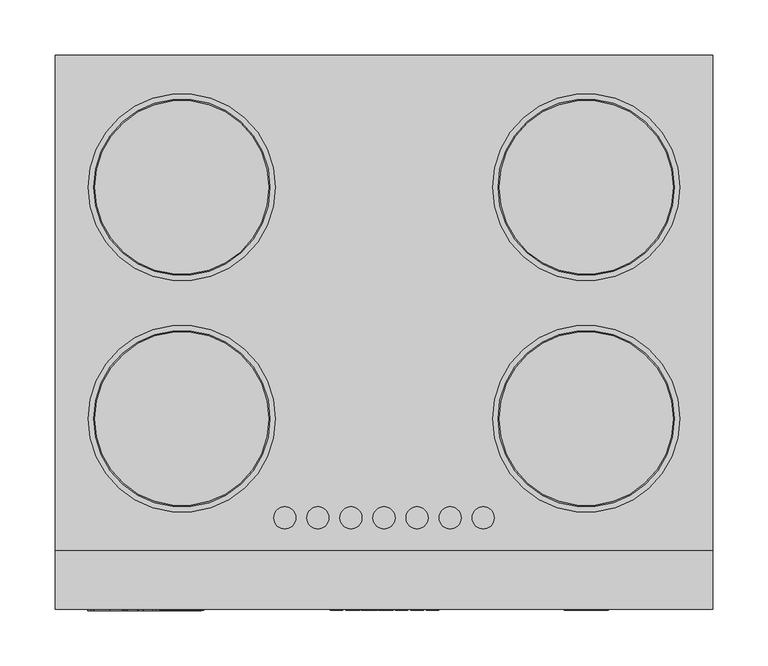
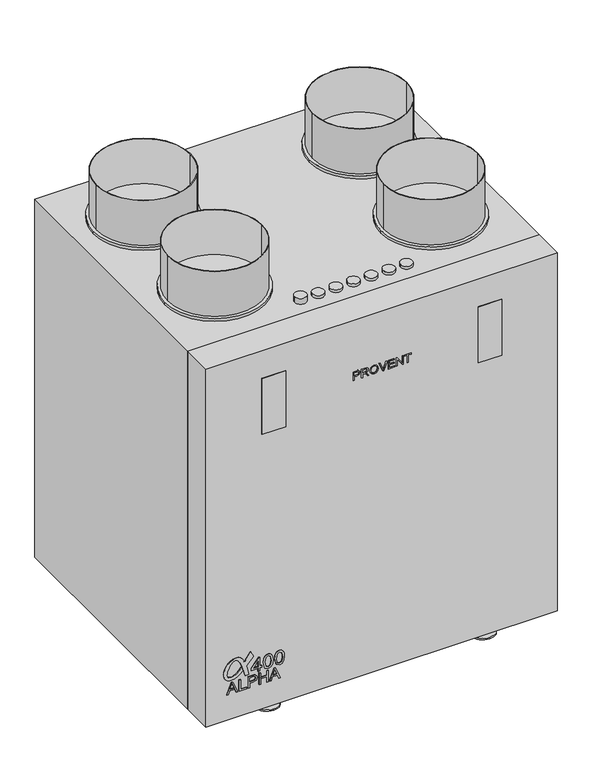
"""IFC4 building model written with IfcOpenShell, lengths in millimetres: proxy geometry, PROVENT_Вертикальная приточно-вытяжная установка_ALPHA 400 V_L : Provent ALPHA 400 V (L)."""

from ifc_helpers import new_model, si_unit, point, frame, frame_2d, origin, origin_with_axes, place, context, project, spatial, polyline, circle_curve, trimmed, segment, composite_curve, outline, extrude, source, transform, mapped, element, save
from ifc_brep_helpers import plane_surface, cylinder_surface, advanced_brep


def mechanical_equipment_3e4f93d2(model_context):
    return source(origin(), model_context, "Body", "SolidModel", [
        extrude(outline(composite_curve([segment(trimmed(circle_curve(frame_2d((105.733129, -233.6479162)), 0.5380284), [point((105.5307619, -233.1493963))], [point((105.5307619, -234.1464361))], True, "CARTESIAN"), True, "CONTINUOUS"), segment(polyline([(105.5307619, -234.1464361), (108.4438718, -235.2646742), (110.8786758, -236.5052688), (111.8121807, -237.158916)]), True, "CONTINUOUS"), segment(trimmed(circle_curve(frame_2d((104.0893382, -247.129322)), 12.6115539), [point((111.8121807, -237.158916))], [point((116.6261852, -248.5))], False, "CARTESIAN"), True, "CONTINUOUS"), segment(trimmed(circle_curve(frame_2d((94.7661112, -246.1099953)), 21.9903379), [point((116.6261852, -248.5))], [point((104.4885666, -265.8343159))], False, "CARTESIAN"), True, "CONTINUOUS"), segment(trimmed(circle_curve(frame_2d((93.5739124, -247.3024361)), 21.5072137), [point((104.4885666, -265.8343159))], [point((86.750764, -267.698634))], False, "CARTESIAN"), True, "CONTINUOUS"), segment(trimmed(circle_curve(frame_2d((92.3890877, -256.5751088)), 12.4709065), [point((86.750764, -267.698634))], [point((79.9366704, -255.8962777))], False, "CARTESIAN"), True, "CONTINUOUS"), segment(trimmed(circle_curve(frame_2d((110.0461474, -259.6005323)), 30.3364814), [point((79.9366704, -255.8962777))], [point((90.1381753, -236.7100375))], False, "CARTESIAN"), True, "CONTINUOUS"), segment(polyline([(90.1381753, -236.7100375), (97.4533974, -239.0868972)]), True, "CONTINUOUS"), segment(trimmed(circle_curve(frame_2d((112.8376087, -264.5490398)), 29.7488598), [point((97.4533974, -239.0868972))], [point((85.9068624, -251.9106235))], True, "CARTESIAN"), True, "CONTINUOUS"), segment(trimmed(circle_curve(frame_2d((94.2043298, -255.8045686)), 9.1657392), [point((85.9068624, -251.9106235))], [point((86.5295452, -260.8154024))], True, "CARTESIAN"), True, "CONTINUOUS"), segment(trimmed(circle_curve(frame_2d((91.0798658, -257.8445177)), 5.4342961), [point((86.5295452, -260.8154024))], [point((91.5402338, -263.2592786))], True, "CARTESIAN"), True, "CONTINUOUS"), segment(trimmed(circle_curve(frame_2d((91.5850962, -244.5080308)), 18.7513014), [point((91.5402338, -263.2592786))], [point((99.8454243, -261.3418743))], True, "CARTESIAN"), True, "CONTINUOUS"), segment(trimmed(circle_curve(frame_2d((91.1893595, -236.2792508)), 26.5153267), [point((99.8454243, -261.3418743))], [point((111.1844004, -253.6936383))], True, "CARTESIAN"), True, "CONTINUOUS"), segment(trimmed(circle_curve(frame_2d((105.8571487, -249.0539465)), 7.0644427), [point((111.1844004, -253.6936383))], [point((110.4868357, -243.7179978))], True, "CARTESIAN"), True, "CONTINUOUS"), segment(trimmed(circle_curve(frame_2d((74.7273898, -306.3387075)), 72.1116583), [point((110.4868357, -243.7179978))], [point((96.0155477, -237.4409166))], True, "CARTESIAN"), True, "CONTINUOUS"), segment(polyline([(96.0155477, -237.4409166), (80.1999436, -232.3021153), (80.1999436, -226.2678218), (94.9084674, -230.0689193)]), True, "CONTINUOUS"), segment(trimmed(circle_curve(frame_2d((95.7729921, -226.7236006)), 3.4552222), [point((94.9084674, -230.0689193))], [point((98.5138308, -228.8274931))], True, "CARTESIAN"), True, "CONTINUOUS"), segment(polyline([(98.5138308, -228.8274931), (109.4841363, -218.5975177)]), True, "CONTINUOUS"), segment(trimmed(circle_curve(frame_2d((110.1625275, -219.3250032)), 0.9947108), [point((109.4841363, -218.5975177))], [point((110.8409186, -218.5975177))], False, "CARTESIAN"), True, "CONTINUOUS"), segment(polyline([(110.8409186, -218.5975177), (118.9566741, -222.5558361)]), True, "CONTINUOUS"), segment(trimmed(circle_curve(frame_2d((118.472789, -222.8994306)), 0.593466), [point((118.9566741, -222.5558361))], [point((118.8242858, -223.3776062))], False, "CARTESIAN"), True, "CONTINUOUS"), segment(polyline([(118.8242858, -223.3776062), (105.5307619, -233.1493963)]), True, "CONTINUOUS")], self_intersect=False)), frame((0.0, -252.5, 0.0), z_axis=(0.0, 1.0, 0.0), x_axis=(0.0, 0.0, 1.0)), (0.0, 0.0, 1.0), 1.0),
        extrude(outline(polyline([(55.4809879, -263.4468788), (55.4809879, -260.7932233), (61.7595073, -258.4976397), (61.7595073, -250.2227473), (55.4809879, -247.9222586), (55.4809879, -245.2686031), (75.57225, -253.2884306), (75.57225, -255.4270513), (55.4809879, -263.4468788)]), holes=[polyline([(64.2709151, -257.5754821), (69.6419922, -255.6085397), (73.0608422, -254.3577409), (69.210344, -252.9499792), (64.2709151, -251.1399998), (64.2709151, -257.5754821)])]), frame((0.0, -252.5, 0.0), z_axis=(0.0, 1.0, 0.0), x_axis=(0.0, 0.0, 1.0)), (0.0, 0.0, 1.0), 5.0),
        extrude(outline(polyline([(55.4809879, -242.5855171), (55.4809879, -230.0284783), (57.9923957, -230.0284783), (57.9923957, -240.0741093), (75.57225, -240.0741093), (75.57225, -242.5855171), (55.4809879, -242.5855171)])), frame((0.0, -252.5, 0.0), z_axis=(0.0, 1.0, 0.0), x_axis=(0.0, 0.0, 1.0)), (0.0, 0.0, 1.0), 5.0),
        extrude(outline(polyline([(55.4809879, -227.2031446), (55.4809879, -224.6917369), (63.6430631, -224.6917369), (63.6430631, -219.5855348), (65.4187069, -213.7509263), (69.7597144, -212.1346981), (72.499209, -212.7331195), (74.441626, -214.315012), (75.3809513, -216.7552959), (75.57225, -219.757213), (75.57225, -227.2031446), (55.4809879, -227.2031446)]), holes=[polyline([(66.1544709, -224.6917369), (73.0608422, -224.6917369), (73.0608422, -219.4972431), (72.8891639, -216.9858353), (71.7511823, -215.2911256), (69.6714228, -214.6461058), (67.0766284, -215.7399416), (66.1544709, -219.438382), (66.1544709, -224.6917369)])]), frame((0.0, -252.5, 0.0), z_axis=(0.0, 1.0, 0.0), x_axis=(0.0, 0.0, 1.0)), (0.0, 0.0, 1.0), 5.0),
        extrude(outline(polyline([(55.4809879, -208.6815124), (55.4809879, -206.1701047), (64.898767, -206.1701047), (64.898767, -195.4966217), (55.4809879, -195.4966217), (55.4809879, -192.985214), (75.57225, -192.985214), (75.57225, -195.4966217), (67.4101748, -195.4966217), (67.4101748, -206.1701047), (75.57225, -206.1701047), (75.57225, -208.6815124), (55.4809879, -208.6815124)])), frame((0.0, -252.5, 0.0), z_axis=(0.0, 1.0, 0.0), x_axis=(0.0, 0.0, 1.0)), (0.0, 0.0, 1.0), 5.0),
        extrude(outline(polyline([(55.4809879, -190.9299799), (55.4809879, -188.2763244), (61.7595073, -185.9807408), (61.7595073, -177.7058484), (55.4809879, -175.4053597), (55.4809879, -172.7517042), (75.57225, -180.7715317), (75.57225, -182.9101524), (55.4809879, -190.9299799)]), holes=[polyline([(64.2709151, -185.0585832), (69.6419922, -183.0916408), (73.0608422, -181.8408421), (69.210344, -180.4330803), (64.2709151, -178.6231009), (64.2709151, -185.0585832)])]), frame((0.0, -252.5, 0.0), z_axis=(0.0, 1.0, 0.0), x_axis=(0.0, 0.0, 1.0)), (0.0, 0.0, 1.0), 5.0),
        extrude(outline(polyline([(79.6103604, -210.3816414), (79.6103604, -207.2423817), (85.4964723, -207.2423817), (85.4964723, -204.103122), (88.635732, -204.103122), (88.635732, -207.2423817), (104.3320305, -207.2423817), (104.3320305, -209.5968265), (88.635732, -221.7614578), (85.4964723, -221.7614578), (85.4964723, -210.3816414), (79.6103604, -210.3816414)]), holes=[polyline([(88.635732, -210.3816414), (88.635732, -217.8986969), (98.3355539, -210.3816414), (88.635732, -210.3816414)])]), frame((0.0, -252.5, 0.0), z_axis=(0.0, 1.0, 0.0), x_axis=(0.0, 0.0, 1.0)), (0.0, 0.0, 1.0), 5.0),
        extrude(outline(polyline([(91.9650641, -201.3562698), (81.6091859, -198.8546722), (79.2179529, -193.1157131), (80.5944447, -188.5202539), (84.7699054, -185.7887301), (91.9650641, -184.8751564), (97.8665044, -185.4453735), (101.5821126, -186.9169015), (103.9150975, -189.4491559), (104.7244379, -193.1157131), (103.3571432, -197.6927783), (99.1908796, -200.4334991), (91.9650641, -201.3562698)]), holes=[polyline([(91.9711954, -198.2170101), (99.9051838, -196.6964312), (101.5851782, -193.1525013), (99.6783232, -189.4368932), (91.9711954, -188.0144161), (84.1812942, -189.4859441), (82.3572126, -193.1157131), (84.1751628, -196.7454821), (91.9711954, -198.2170101)])]), frame((0.0, -252.5, 0.0), z_axis=(0.0, 1.0, 0.0), x_axis=(0.0, 0.0, 1.0)), (0.0, 0.0, 1.0), 5.0),
        extrude(outline(polyline([(91.9650641, -182.1283042), (81.6091859, -179.6267066), (79.2179529, -173.8877475), (80.5944447, -169.2922882), (84.7699054, -166.5607644), (91.9650641, -165.6471908), (97.8665044, -166.2174079), (101.5821126, -167.6889359), (103.9150975, -170.2211903), (104.7244379, -173.8877475), (103.3571432, -178.4648127), (99.1908796, -181.2055335), (91.9650641, -182.1283042)]), holes=[polyline([(91.9711954, -178.9890445), (99.9051838, -177.4684656), (101.5851782, -173.9245357), (99.6783232, -170.2089276), (91.9711954, -168.7864505), (84.1812942, -170.2579785), (82.3572126, -173.8877475), (84.1751628, -177.5175165), (91.9711954, -178.9890445)])]), frame((0.0, -252.5, 0.0), z_axis=(0.0, 1.0, 0.0), x_axis=(0.0, 0.0, 1.0)), (0.0, 0.0, 1.0), 5.0),
        extrude(outline(polyline([(-163.5, -252.5), (-203.5, -252.5), (-203.5, -251.5), (-163.5, -251.5), (-163.5, -252.5)])), frame((0.0, 0.0, 503.0), z_axis=(0.0, 0.0, 1.0), x_axis=(1.0, 0.0, 0.0)), (0.0, 0.0, 1.0), 100.0),
        extrude(outline(polyline([(203.5, -252.5), (163.5, -252.5), (163.5, -251.5), (203.5, -251.5), (203.5, -252.5)])), frame((0.0, 0.0, 503.0), z_axis=(0.0, 0.0, 1.0), x_axis=(1.0, 0.0, 0.0)), (0.0, 0.0, 1.0), 100.0),
        extrude(outline(composite_curve([segment(trimmed(circle_curve(frame_2d((-90.0, -168.5)), 10.0), [point((-100.0, -168.5))], [point((-80.0, -168.5))], False, "CARTESIAN"), True, "CONTINUOUS"), segment(trimmed(circle_curve(frame_2d((-90.0, -168.5)), 10.0), [point((-80.0, -168.5))], [point((-100.0, -168.5))], False, "CARTESIAN"), True, "CONTINUOUS")], self_intersect=False)), frame((0.0, 0.0, 653.0), z_axis=(0.0, 0.0, 1.0), x_axis=(1.0, 0.0, 0.0)), (0.0, 0.0, 1.0), 10.0),
        extrude(outline(composite_curve([segment(trimmed(circle_curve(frame_2d((0.0, -168.5)), 10.0), [point((-10.0, -168.5))], [point((10.0, -168.5))], False, "CARTESIAN"), True, "CONTINUOUS"), segment(trimmed(circle_curve(frame_2d((0.0, -168.5)), 10.0), [point((10.0, -168.5))], [point((-10.0, -168.5))], False, "CARTESIAN"), True, "CONTINUOUS")], self_intersect=False)), frame((0.0, 0.0, 653.0), z_axis=(0.0, 0.0, 1.0), x_axis=(1.0, 0.0, 0.0)), (0.0, 0.0, 1.0), 5.0),
        extrude(outline(composite_curve([segment(trimmed(circle_curve(frame_2d((30.0, -168.5)), 10.0), [point((20.0, -168.5))], [point((40.0, -168.5))], False, "CARTESIAN"), True, "CONTINUOUS"), segment(trimmed(circle_curve(frame_2d((30.0, -168.5)), 10.0), [point((40.0, -168.5))], [point((20.0, -168.5))], False, "CARTESIAN"), True, "CONTINUOUS")], self_intersect=False)), frame((0.0, 0.0, 653.0), z_axis=(0.0, 0.0, 1.0), x_axis=(1.0, 0.0, 0.0)), (0.0, 0.0, 1.0), 5.0),
        extrude(outline(composite_curve([segment(trimmed(circle_curve(frame_2d((60.0, -168.5)), 10.0), [point((50.0, -168.5))], [point((70.0, -168.5))], False, "CARTESIAN"), True, "CONTINUOUS"), segment(trimmed(circle_curve(frame_2d((60.0, -168.5)), 10.0), [point((70.0, -168.5))], [point((50.0, -168.5))], False, "CARTESIAN"), True, "CONTINUOUS")], self_intersect=False)), frame((0.0, 0.0, 653.0), z_axis=(0.0, 0.0, 1.0), x_axis=(1.0, 0.0, 0.0)), (0.0, 0.0, 1.0), 5.0),
        extrude(outline(composite_curve([segment(trimmed(circle_curve(frame_2d((90.0, -168.5)), 10.0), [point((80.0, -168.5))], [point((100.0, -168.5))], False, "CARTESIAN"), True, "CONTINUOUS"), segment(trimmed(circle_curve(frame_2d((90.0, -168.5)), 10.0), [point((100.0, -168.5))], [point((80.0, -168.5))], False, "CARTESIAN"), True, "CONTINUOUS")], self_intersect=False)), frame((0.0, 0.0, 653.0), z_axis=(0.0, 0.0, 1.0), x_axis=(1.0, 0.0, 0.0)), (0.0, 0.0, 1.0), 5.0),
        extrude(outline(composite_curve([segment(trimmed(circle_curve(frame_2d((-30.0, -168.5)), 10.0), [point((-40.0, -168.5))], [point((-20.0, -168.5))], False, "CARTESIAN"), True, "CONTINUOUS"), segment(trimmed(circle_curve(frame_2d((-30.0, -168.5)), 10.0), [point((-20.0, -168.5))], [point((-40.0, -168.5))], False, "CARTESIAN"), True, "CONTINUOUS")], self_intersect=False)), frame((0.0, 0.0, 653.0), z_axis=(0.0, 0.0, 1.0), x_axis=(1.0, 0.0, 0.0)), (0.0, 0.0, 1.0), 5.0),
        extrude(outline(composite_curve([segment(trimmed(circle_curve(frame_2d((-60.0, -168.5)), 10.0), [point((-70.0, -168.5))], [point((-50.0, -168.5))], False, "CARTESIAN"), True, "CONTINUOUS"), segment(trimmed(circle_curve(frame_2d((-60.0, -168.5)), 10.0), [point((-50.0, -168.5))], [point((-70.0, -168.5))], False, "CARTESIAN"), True, "CONTINUOUS")], self_intersect=False)), frame((0.0, 0.0, 653.0), z_axis=(0.0, 0.0, 1.0), x_axis=(1.0, 0.0, 0.0)), (0.0, 0.0, 1.0), 5.0),
        advanced_brep(
        [(-203.5, -198.7475488, 2.5), (-203.5, -161.2475488, 10.0), (-203.5, -148.5, 10.0), (-203.5, -148.5, 7.5), (-203.5, -161.0, 7.5), (-203.5, -198.5, 0.0), (-203.5, -231.5, 0.0), (-203.5, -231.5, 2.5), (-163.5, -198.5, 0.0), (-163.5, -161.0, 7.5), (-163.5, -148.5, 7.5), (-163.5, -148.5, 10.0), (-163.5, -161.2475488, 10.0), (-163.5, -198.7475488, 2.5), (-163.5, -231.5, 2.5), (-163.5, -231.5, 0.0), (-183.5, -251.5, 0.0), (-183.5, -251.5, 2.5)],
        [
            (0, 1),
            (1, 2),
            (2, 3),
            (3, 4),
            (4, 5),
            (5, 6),
            (6, 7),
            (7, 0),
            (8, 9),
            (9, 10),
            (10, 11),
            (11, 12),
            (12, 13),
            (13, 14),
            (14, 15),
            (15, 8),
            (5, 8),
            (15, 16, circle_curve(frame((-183.5, -231.5, 0.0), z_axis=(0.0, 0.0, -1.0), x_axis=(-1.0, 0.0, 0.0)), 20.0)),
            (16, 6, circle_curve(frame((-183.5, -231.5, 0.0), z_axis=(0.0, 0.0, -1.0), x_axis=(1.0, 0.0, 0.0)), 20.0)),
            (4, 9),
            (3, 10),
            (2, 11),
            (1, 12),
            (0, 13),
            (7, 17, circle_curve(frame((-183.5, -231.5, 2.5), z_axis=(0.0, 0.0, 1.0), x_axis=(1.0, 0.0, 0.0)), 20.0)),
            (17, 14, circle_curve(frame((-183.5, -231.5, 2.5), z_axis=(0.0, 0.0, 1.0), x_axis=(-1.0, 0.0, 0.0)), 20.0)),
            (17, 16),
        ],
        [
            plane_surface(frame((-203.5, -251.5, 2.5), z_axis=(-1.0, 0.0, 0.0), x_axis=(0.0, 1.0, 0.0))),
            plane_surface(frame((-163.5, -251.5, 2.5), z_axis=(1.0, 0.0, 0.0), x_axis=(0.0, -1.0, 0.0))),
            plane_surface(frame((-203.5, -198.5, 0.0), z_axis=(0.0, 0.0, -1.0), x_axis=(1.0, 0.0, 0.0))),
            plane_surface(frame((-203.5, -161.0, 7.5), z_axis=(0.0, 0.19611613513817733, -0.9805806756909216), x_axis=(1.0, 0.0, 0.0))),
            plane_surface(frame((-203.5, -148.5, 7.5), z_axis=(0.0, 0.0, -1.0), x_axis=(1.0, 0.0, 0.0))),
            plane_surface(frame((-203.5, -148.5, 10.0), z_axis=(0.0, 1.0, 0.0), x_axis=(1.0, 0.0, 0.0))),
            plane_surface(frame((-203.5, -161.2475488, 10.0), z_axis=(0.0, 0.0, 1.0), x_axis=(1.0, 0.0, 0.0))),
            plane_surface(frame((-203.5, -198.7475488, 2.5), z_axis=(0.0, -0.1961161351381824, 0.9805806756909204), x_axis=(1.0, 0.0, 0.0))),
            plane_surface(frame((-203.5, -251.5, 2.5), z_axis=(0.0, 0.0, 1.0), x_axis=(1.0, 0.0, 0.0))),
            cylinder_surface(frame((-183.5, -231.5, 0.0), z_axis=(0.0, 0.0, -1.0), x_axis=(-1.0, 0.0, 0.0)), 20.0),
            cylinder_surface(frame((-183.5, -231.5, 0.0), z_axis=(0.0, 0.0, -1.0), x_axis=(1.0, 0.0, 0.0)), 20.0),
        ],
        [
            (0, [[1, 2, 3, 4, 5, 6, 7, 8]]),
            (1, [[9, 10, 11, 12, 13, 14, 15, 16]]),
            (2, [[17, -16, 18, 19, -6]]),
            (3, [[-5, 20, -9, -17]]),
            (4, [[-4, 21, -10, -20]]),
            (5, [[-3, 22, -11, -21]]),
            (6, [[-2, 23, -12, -22]]),
            (7, [[-1, 24, -13, -23]]),
            (8, [[-24, -8, 25, 26, -14]]),
            (9, [[-15, -26, 27, -18]]),
            (10, [[-7, -19, -27, -25]]),
        ],
    ),
        advanced_brep(
        [(203.5, -198.5, 0.0), (203.5, -161.0, 7.5), (203.5, -148.5, 7.5), (203.5, -148.5, 10.0), (203.5, -161.2475488, 10.0), (203.5, -198.7475488, 2.5), (203.5, -231.5, 2.5), (203.5, -231.5, 0.0), (163.5, -198.7475488, 2.5), (163.5, -161.2475488, 10.0), (163.5, -148.5, 10.0), (163.5, -148.5, 7.5), (163.5, -161.0, 7.5), (163.5, -198.5, 0.0), (163.5, -231.5, 0.0), (163.5, -231.5, 2.5), (183.5, -251.5, 0.0), (183.5, -251.5, 2.5)],
        [
            (0, 1),
            (1, 2),
            (2, 3),
            (3, 4),
            (4, 5),
            (5, 6),
            (6, 7),
            (7, 0),
            (8, 9),
            (9, 10),
            (10, 11),
            (11, 12),
            (12, 13),
            (13, 14),
            (14, 15),
            (15, 8),
            (13, 0),
            (7, 16, circle_curve(frame((183.5, -231.5, 0.0), z_axis=(0.0, 0.0, -1.0), x_axis=(-1.0, 0.0, 0.0)), 20.0)),
            (16, 14, circle_curve(frame((183.5, -231.5, 0.0), z_axis=(0.0, 0.0, -1.0), x_axis=(1.0, 0.0, 0.0)), 20.0)),
            (12, 1),
            (11, 2),
            (10, 3),
            (9, 4),
            (8, 5),
            (15, 17, circle_curve(frame((183.5, -231.5, 2.5), z_axis=(0.0, 0.0, 1.0), x_axis=(1.0, 0.0, 0.0)), 20.0)),
            (17, 6, circle_curve(frame((183.5, -231.5, 2.5), z_axis=(0.0, 0.0, 1.0), x_axis=(-1.0, 0.0, 0.0)), 20.0)),
            (16, 17),
        ],
        [
            plane_surface(frame((203.5, -251.5, 0.0), z_axis=(1.0, 0.0, 0.0), x_axis=(0.0, 0.0, -1.0))),
            plane_surface(frame((163.5, -251.5, 0.0), z_axis=(-1.0, 0.0, 0.0), x_axis=(0.0, 0.0, 1.0))),
            plane_surface(frame((203.5, -251.5, 0.0), z_axis=(0.0, 0.0, -1.0), x_axis=(-1.0, 0.0, 0.0))),
            plane_surface(frame((203.5, -198.5, 0.0), z_axis=(0.0, 0.19611613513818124, -0.9805806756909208), x_axis=(-1.0, 0.0, 0.0))),
            plane_surface(frame((203.5, -161.0, 7.5), z_axis=(0.0, 0.0, -1.0), x_axis=(-1.0, 0.0, 0.0))),
            plane_surface(frame((203.5, -148.5, 7.5), z_axis=(0.0, 1.0, 0.0), x_axis=(-1.0, 0.0, 0.0))),
            plane_surface(frame((203.5, -148.5, 10.0), z_axis=(0.0, 0.0, 1.0), x_axis=(-1.0, 0.0, 0.0))),
            plane_surface(frame((203.5, -161.2475488, 10.0), z_axis=(0.0, -0.19611613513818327, 0.9805806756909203), x_axis=(-1.0, 0.0, 0.0))),
            plane_surface(frame((203.5, -198.7475488, 2.5), z_axis=(0.0, 0.0, 1.0), x_axis=(-1.0, 0.0, 0.0))),
            cylinder_surface(frame((183.5, -231.5, 0.0), z_axis=(0.0, 0.0, -1.0), x_axis=(1.0, 0.0, 0.0)), 20.0),
            cylinder_surface(frame((183.5, -231.5, 0.0), z_axis=(0.0, 0.0, -1.0), x_axis=(-1.0, 0.0, 0.0)), 20.0),
        ],
        [
            (0, [[1, 2, 3, 4, 5, 6, 7, 8]]),
            (1, [[9, 10, 11, 12, 13, 14, 15, 16]]),
            (2, [[17, -8, 18, 19, -14]]),
            (3, [[-1, -17, -13, 20]]),
            (4, [[-2, -20, -12, 21]]),
            (5, [[-3, -21, -11, 22]]),
            (6, [[-4, -22, -10, 23]]),
            (7, [[-5, -23, -9, 24]]),
            (8, [[-24, -16, 25, 26, -6]]),
            (9, [[-15, -19, 27, -25]]),
            (10, [[-7, -26, -27, -18]]),
        ],
    ),
        extrude(outline(polyline([(298.5, -251.5), (-298.5, -251.5), (-298.5, -198.5), (298.5, -198.5), (298.5, -251.5)])), frame((0.0, 0.0, 10.0), z_axis=(0.0, 0.0, 1.0), x_axis=(1.0, 0.0, 0.0)), (0.0, 0.0, 1.0), 643.0),
        extrude(outline(polyline([(545.5, -48.7370067), (545.5, -46.8534509), (551.6215564, -46.8534509), (551.6215564, -43.0237993), (552.9532892, -38.647843), (556.2090449, -37.4356718), (558.2636658, -37.8844879), (559.7204785, -39.0709073), (560.4249725, -40.9011202), (560.5684465, -43.152558), (560.5684465, -48.7370067), (545.5, -48.7370067)]), holes=[polyline([(553.5051122, -46.8534509), (558.6848907, -46.8534509), (558.6848907, -42.9575806), (557.7026458, -39.8029925), (556.1428261, -39.3192276), (554.1967304, -40.1396045), (553.5051122, -42.9134347), (553.5051122, -46.8534509)])]), frame((0.0, -252.5, 0.0), z_axis=(0.0, 1.0, 0.0), x_axis=(0.0, 0.0, 1.0)), (0.0, 0.0, 1.0), 5.0),
        extrude(outline(polyline([(545.5, -34.8457826), (545.5, -32.9622268), (552.0924454, -32.9622268), (550.690815, -27.7051931), (548.6233181, -26.2888474), (545.5, -24.3280363), (545.5, -22.1391385), (549.5834901, -24.6517725), (552.3278898, -27.2490194), (553.7295202, -24.0944313), (556.4444894, -23.0735587), (558.7235183, -23.6897611), (560.1619369, -25.3378724), (560.5684465, -28.3526654), (560.5684465, -34.8457826), (545.5, -34.8457826)]), holes=[polyline([(553.9760012, -32.9622268), (558.6848907, -32.9622268), (558.6848907, -28.2717313), (558.0337396, -25.7535791), (554.2427156, -26.5960288), (553.9760012, -28.7462991), (553.9760012, -32.9622268)])]), frame((0.0, -252.5, 0.0), z_axis=(0.0, 1.0, 0.0), x_axis=(0.0, 0.0, 1.0)), (0.0, 0.0, 1.0), 5.0),
        extrude(outline(polyline([(552.835567, -20.4836695), (549.08501, -19.6228256), (546.2891069, -17.0917975), (545.2645555, -13.3026129), (546.1916182, -9.655063), (548.9213026, -7.0431008), (553.0084715, -6.1215564), (557.0404582, -6.9971155), (559.8106096, -9.542859), (560.803891, -13.2915765), (558.6885695, -18.4750338), (552.835567, -20.4836695)]), holes=[polyline([(552.8171729, -18.6001137), (557.5131866, -17.0292576), (558.9203352, -13.28054), (558.1900894, -10.5159068), (556.1317897, -8.6452269), (553.0231868, -8.0051122), (548.6785004, -9.5005525), (547.1481113, -13.3136494), (548.6637852, -17.0936369), (552.8171729, -18.6001137)])]), frame((0.0, -252.5, 0.0), z_axis=(0.0, 1.0, 0.0), x_axis=(0.0, 0.0, 1.0)), (0.0, 0.0, 1.0), 5.0),
        extrude(outline(polyline([(545.5, 0.919705), (545.5, 2.8658007), (560.5684465, 8.6084387), (560.5684465, 6.5924454), (549.7122488, 2.5678163), (547.2658336, 1.7658336), (549.7122488, 0.9528144), (560.5684465, -3.0607782), (560.5684465, -5.0767715), (545.5, 0.919705)])), frame((0.0, -252.5, 0.0), z_axis=(0.0, 1.0, 0.0), x_axis=(0.0, 0.0, 1.0)), (0.0, 0.0, 1.0), 5.0),
        extrude(outline(polyline([(545.5, 10.359557), (545.5, 21.4254474), (547.3835558, 21.4254474), (547.3835558, 12.2431128), (552.3278898, 12.2431128), (552.3278898, 20.719114), (554.2114456, 20.719114), (554.2114456, 12.2431128), (558.6848907, 12.2431128), (558.6848907, 21.1900029), (560.5684465, 21.1900029), (560.5684465, 10.359557), (545.5, 10.359557)])), frame((0.0, -252.5, 0.0), z_axis=(0.0, 1.0, 0.0), x_axis=(0.0, 0.0, 1.0)), (0.0, 0.0, 1.0), 5.0),
        extrude(outline(polyline([(545.5, 24.2507811), (545.5, 26.1343369), (557.4414496, 26.1343369), (545.5, 34.0070116), (545.5, 36.023005), (560.5684465, 36.023005), (560.5684465, 34.1394492), (548.6306758, 34.1394492), (560.5684465, 26.2667745), (560.5684465, 24.2507811), (545.5, 24.2507811)])), frame((0.0, -252.5, 0.0), z_axis=(0.0, 1.0, 0.0), x_axis=(0.0, 0.0, 1.0)), (0.0, 0.0, 1.0), 5.0),
        extrude(outline(polyline([(545.5, 43.0863393), (545.5, 44.9698951), (558.6848907, 44.9698951), (558.6848907, 49.9142291), (560.5684465, 49.9142291), (560.5684465, 38.1420053), (558.6848907, 38.1420053), (558.6848907, 43.0863393), (545.5, 43.0863393)])), frame((0.0, -252.5, 0.0), z_axis=(0.0, 1.0, 0.0), x_axis=(0.0, 0.0, 1.0)), (0.0, 0.0, 1.0), 5.0),
        extrude(outline(composite_curve([segment(trimmed(circle_curve(frame_2d((-183.5, 131.5)), 85.0), [point((-268.5, 131.5))], [point((-98.5, 131.5))], False, "CARTESIAN"), True, "CONTINUOUS"), segment(trimmed(circle_curve(frame_2d((-183.5, 131.5)), 85.0), [point((-98.5, 131.5))], [point((-268.5, 131.5))], False, "CARTESIAN"), True, "CONTINUOUS")], self_intersect=False)), frame((0.0, 0.0, 653.0), z_axis=(0.0, 0.0, 1.0), x_axis=(1.0, 0.0, 0.0)), (0.0, 0.0, 1.0), 5.0),
        extrude(outline(composite_curve([segment(trimmed(circle_curve(frame_2d((183.5, 131.5)), 85.0), [point((98.5, 131.5))], [point((268.5, 131.5))], False, "CARTESIAN"), True, "CONTINUOUS"), segment(trimmed(circle_curve(frame_2d((183.5, 131.5)), 85.0), [point((268.5, 131.5))], [point((98.5, 131.5))], False, "CARTESIAN"), True, "CONTINUOUS")], self_intersect=False)), frame((0.0, 0.0, 653.0), z_axis=(0.0, 0.0, 1.0), x_axis=(1.0, 0.0, 0.0)), (0.0, 0.0, 1.0), 5.0),
        extrude(outline(composite_curve([segment(trimmed(circle_curve(frame_2d((183.5, -78.5)), 85.0), [point((98.5, -78.5))], [point((268.5, -78.5))], False, "CARTESIAN"), True, "CONTINUOUS"), segment(trimmed(circle_curve(frame_2d((183.5, -78.5)), 85.0), [point((268.5, -78.5))], [point((98.5, -78.5))], False, "CARTESIAN"), True, "CONTINUOUS")], self_intersect=False)), frame((0.0, 0.0, 653.0), z_axis=(0.0, 0.0, 1.0), x_axis=(1.0, 0.0, 0.0)), (0.0, 0.0, 1.0), 5.0),
        extrude(outline(composite_curve([segment(trimmed(circle_curve(frame_2d((-183.5, -78.5)), 85.0), [point((-268.5, -78.5))], [point((-98.5, -78.5))], False, "CARTESIAN"), True, "CONTINUOUS"), segment(trimmed(circle_curve(frame_2d((-183.5, -78.5)), 85.0), [point((-98.5, -78.5))], [point((-268.5, -78.5))], False, "CARTESIAN"), True, "CONTINUOUS")], self_intersect=False)), frame((0.0, 0.0, 653.0), z_axis=(0.0, 0.0, 1.0), x_axis=(1.0, 0.0, 0.0)), (0.0, 0.0, 1.0), 5.0),
        extrude(outline(polyline([(163.5, 251.5), (163.5, 249.0), (-163.5, 249.0), (-163.5, 251.5), (163.5, 251.5)])), origin_with_axes(), (0.0, 0.0, 1.0), 10.0),
        extrude(outline(composite_curve([segment(trimmed(circle_curve(frame_2d((-183.5, 131.5)), 80.0), [point((-263.5, 131.5))], [point((-103.5, 131.5))], False, "CARTESIAN"), True, "CONTINUOUS"), segment(trimmed(circle_curve(frame_2d((-183.5, 131.5)), 80.0), [point((-103.5, 131.5))], [point((-263.5, 131.5))], False, "CARTESIAN"), True, "CONTINUOUS")], self_intersect=False), holes=[composite_curve([segment(trimmed(circle_curve(frame_2d((-183.5, 131.5)), 79.0), [point((-262.5, 131.5))], [point((-104.5, 131.5))], True, "CARTESIAN"), True, "CONTINUOUS"), segment(trimmed(circle_curve(frame_2d((-183.5, 131.5)), 79.0), [point((-104.5, 131.5))], [point((-262.5, 131.5))], True, "CARTESIAN"), True, "CONTINUOUS")], self_intersect=False)]), frame((0.0, 0.0, 653.0), z_axis=(0.0, 0.0, 1.0), x_axis=(1.0, 0.0, 0.0)), (0.0, 0.0, 1.0), 86.0),
        extrude(outline(composite_curve([segment(trimmed(circle_curve(frame_2d((183.5, 131.5)), 80.0), [point((103.5, 131.5))], [point((263.5, 131.5))], False, "CARTESIAN"), True, "CONTINUOUS"), segment(trimmed(circle_curve(frame_2d((183.5, 131.5)), 80.0), [point((263.5, 131.5))], [point((103.5, 131.5))], False, "CARTESIAN"), True, "CONTINUOUS")], self_intersect=False), holes=[composite_curve([segment(trimmed(circle_curve(frame_2d((183.5, 131.5)), 79.0), [point((104.5, 131.5))], [point((262.5, 131.5))], True, "CARTESIAN"), True, "CONTINUOUS"), segment(trimmed(circle_curve(frame_2d((183.5, 131.5)), 79.0), [point((262.5, 131.5))], [point((104.5, 131.5))], True, "CARTESIAN"), True, "CONTINUOUS")], self_intersect=False)]), frame((0.0, 0.0, 653.0), z_axis=(0.0, 0.0, 1.0), x_axis=(1.0, 0.0, 0.0)), (0.0, 0.0, 1.0), 86.0),
        extrude(outline(composite_curve([segment(trimmed(circle_curve(frame_2d((-183.5, -78.5)), 80.0), [point((-263.5, -78.5))], [point((-103.5, -78.5))], False, "CARTESIAN"), True, "CONTINUOUS"), segment(trimmed(circle_curve(frame_2d((-183.5, -78.5)), 80.0), [point((-103.5, -78.5))], [point((-263.5, -78.5))], False, "CARTESIAN"), True, "CONTINUOUS")], self_intersect=False), holes=[composite_curve([segment(trimmed(circle_curve(frame_2d((-183.5, -78.5)), 79.0), [point((-262.5, -78.5))], [point((-104.5, -78.5))], True, "CARTESIAN"), True, "CONTINUOUS"), segment(trimmed(circle_curve(frame_2d((-183.5, -78.5)), 79.0), [point((-104.5, -78.5))], [point((-262.5, -78.5))], True, "CARTESIAN"), True, "CONTINUOUS")], self_intersect=False)]), frame((0.0, 0.0, 653.0), z_axis=(0.0, 0.0, 1.0), x_axis=(1.0, 0.0, 0.0)), (0.0, 0.0, 1.0), 86.0),
        extrude(outline(composite_curve([segment(trimmed(circle_curve(frame_2d((183.5, -78.5)), 80.0), [point((103.5, -78.5))], [point((263.5, -78.5))], False, "CARTESIAN"), True, "CONTINUOUS"), segment(trimmed(circle_curve(frame_2d((183.5, -78.5)), 80.0), [point((263.5, -78.5))], [point((103.5, -78.5))], False, "CARTESIAN"), True, "CONTINUOUS")], self_intersect=False), holes=[composite_curve([segment(trimmed(circle_curve(frame_2d((183.5, -78.5)), 79.0), [point((104.5, -78.5))], [point((262.5, -78.5))], True, "CARTESIAN"), True, "CONTINUOUS"), segment(trimmed(circle_curve(frame_2d((183.5, -78.5)), 79.0), [point((262.5, -78.5))], [point((104.5, -78.5))], True, "CARTESIAN"), True, "CONTINUOUS")], self_intersect=False)]), frame((0.0, 0.0, 653.0), z_axis=(0.0, 0.0, 1.0), x_axis=(1.0, 0.0, 0.0)), (0.0, 0.0, 1.0), 86.0),
        extrude(outline(polyline([(298.5, 251.5), (298.5, -198.5), (-298.5, -198.5), (-298.5, 251.5), (298.5, 251.5)])), frame((0.0, 0.0, 10.0), z_axis=(0.0, 0.0, 1.0), x_axis=(1.0, 0.0, 0.0)), (0.0, 0.0, 1.0), 643.0),
    ])


if __name__ == "__main__":
    model = new_model("IFC4")
    model_context = context("Model", 3, world=origin())
    ifc_project = project(units=[si_unit("LENGTHUNIT", "METRE", prefix="MILLI")], contexts=[model_context])
    site = spatial("IfcSite", under=ifc_project)
    building = spatial("IfcBuilding", under=site)
    placement = place(None, origin())
    mechanical_equipment_shape = mechanical_equipment_3e4f93d2(model_context)
    element("IfcBuildingElementProxy", 1, Name="PROVENT_Вертикальная приточно-вытяжная установка_ALPHA 400 V_L : Provent ALPHA 400 V (L)", ObjectType="PROVENT_Вертикальная приточно-вытяжная установка_ALPHA 400 V_L : Provent ALPHA 400 V (L)", at=placement, inside=building, context=model_context, shape_type="MappedRepresentation", body=[
        mapped(mechanical_equipment_shape, transform((0.0, 0.0, 0.0), x_axis=(1.0, 0.0, 0.0), y_axis=(0.0, 1.0, 0.0), z_axis=(0.0, 0.0, 1.0))),
    ])
    save(model, "model.ifc")
